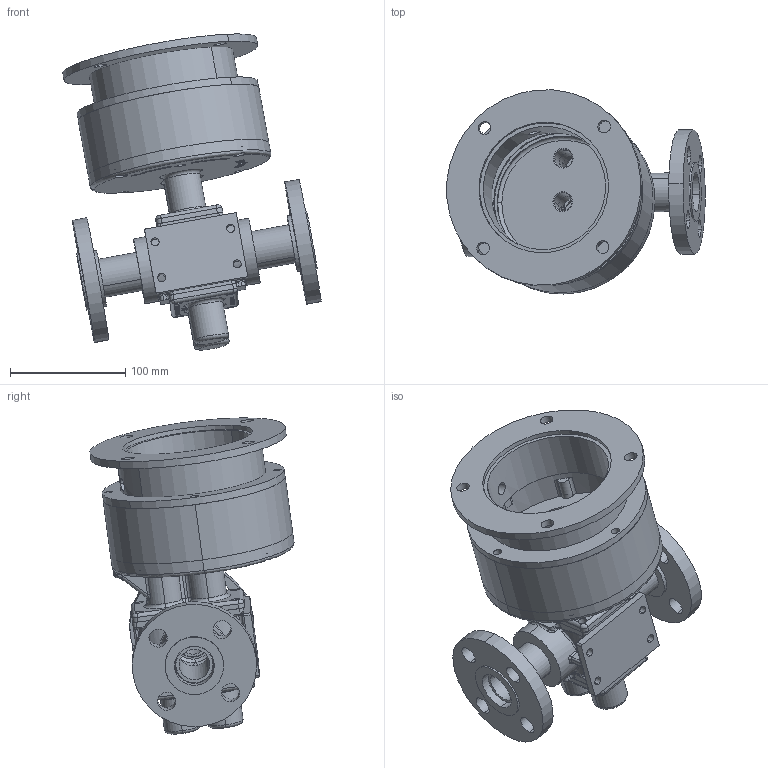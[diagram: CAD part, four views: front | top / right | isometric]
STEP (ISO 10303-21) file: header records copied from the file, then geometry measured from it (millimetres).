
FILE_DESCRIPTION (( 'STEP AP214' ), '1' );
FILE_NAME ('GMC8 FLNG 56-140 NO MOTOR.STEP', '2025-10-02T11:28:40', ( '' ), ( '' ), 'SwSTEP 2.0', 'SolidWorks 2024', '' );
FILE_SCHEMA (( 'AUTOMOTIVE_DESIGN' ));
Length unit declared in the file: inch
Products named in the file (1): GMC8 FLNG 56-140 NO MOTOR
Bounding box: 224.42 x 177.18 x 274.62 mm (x, y, z)
Volume: 1275226.4 mm3; surface area: 378401 mm2
Topology: 16 solids, 16 shells, 1978 faces, 5205 edges, 3352 vertices
Faces by surface type: plane 883, cylinder 477, bspline 396, torus 108, cone 85, sphere 29
Entity records: 80950 total; most frequent: CARTESIAN_POINT 33901, ORIENTED_EDGE 10378, DIRECTION 8607, EDGE_CURVE 5189, VERTEX_POINT 3352, VECTOR 2935, LINE 2935, AXIS2_PLACEMENT_3D 2836
